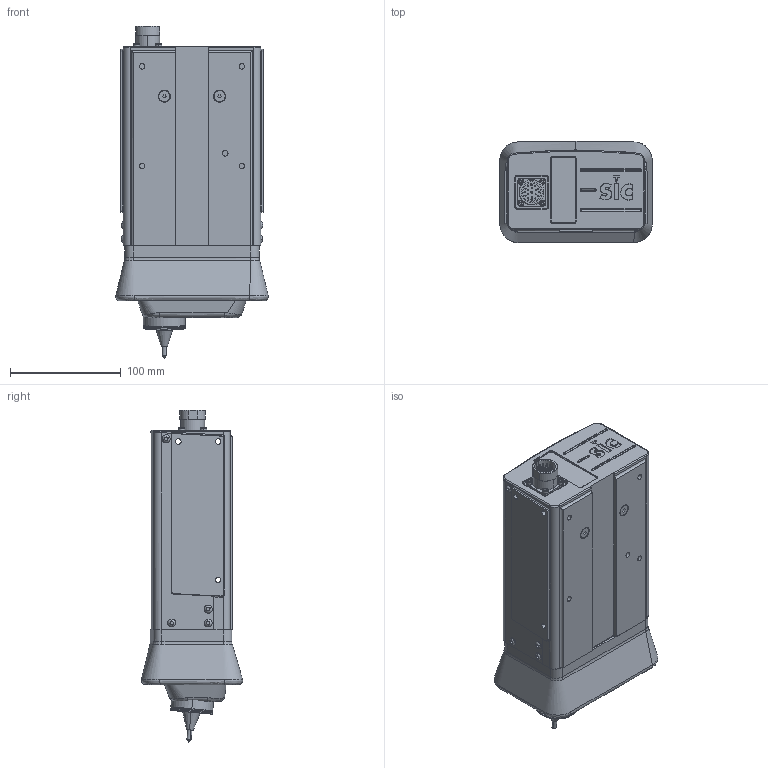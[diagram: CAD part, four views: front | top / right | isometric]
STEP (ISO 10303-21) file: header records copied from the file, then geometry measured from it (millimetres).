
FILE_DESCRIPTION (( 'STEP AP203' ), '1' );
FILE_NAME ('i52 origine.STEP', '2007-02-19T16:51:09', ( 'UTILISATEUR' ), ( '' ), 'SwSTEP 2.0', 'SolidWorks 2006104', '' );
FILE_SCHEMA (( 'CONFIG_CONTROL_DESIGN' ));
Products named in the file (1): i52 origine
Bounding box: 137.81 x 91.57 x 300.05 mm (x, y, z)
Surface area: 143101.7 mm2 (no closed solid volume)
Topology: 0 solids, 30 shells, 942 faces, 3367 edges, 2460 vertices
Faces by surface type: cylinder 409, plane 352, bspline 63, cone 53, torus 40, sphere 25
Entity records: 136206 total; most frequent: CARTESIAN_POINT 107478, DIRECTION 6439, ORIENTED_EDGE 5101, EDGE_CURVE 3363, VERTEX_POINT 2460, AXIS2_PLACEMENT_3D 2434, VECTOR 1571, LINE 1571
